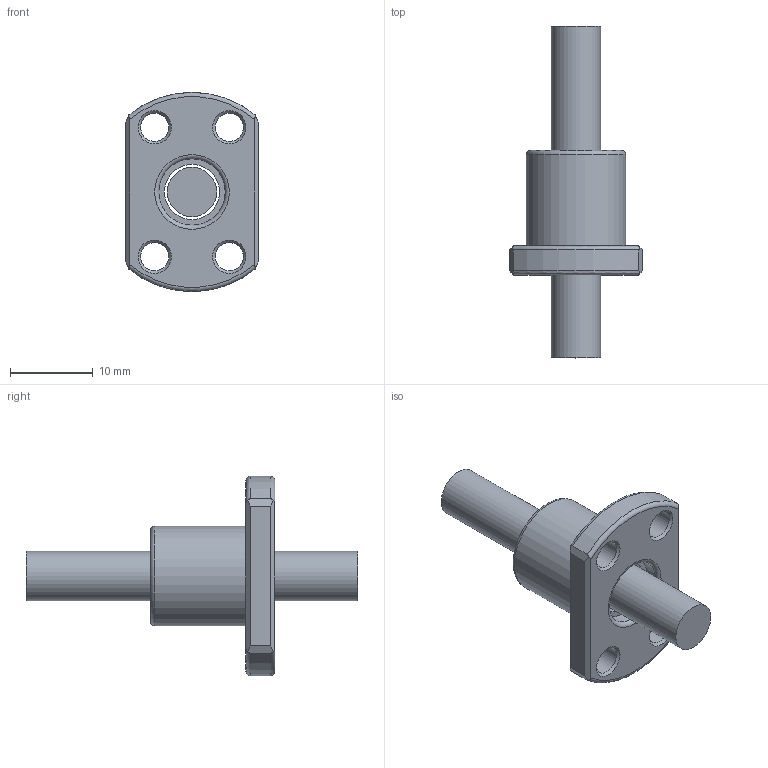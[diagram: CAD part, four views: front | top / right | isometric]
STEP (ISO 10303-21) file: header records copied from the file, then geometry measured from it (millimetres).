
FILE_DESCRIPTION(/* description */ (''),/* implementation_level */ '2;1');
FILE_NAME(/* name */ '0601.prt.step',/* time_stamp */ '2008-12-05T09:38:03+08:00',/* author */ (''),/* organization */ (''),/* preprocessor_version */ 'ST-DEVELOPER v11',/* originating_system */ 'SIEMENS UGS NX 6.0',/* authorisation */ '');
FILE_SCHEMA (('AUTOMOTIVE_DESIGN { 1 0 10303 214 1 1 1 1 }'));
Length unit declared in the file: millimetre
Products named in the file (1): 0601
Bounding box: 16 x 40 x 24 mm (x, y, z)
Volume: 2916.8 mm3; surface area: 2458.4 mm2
Topology: 2 solids, 2 shells, 43 faces, 100 edges, 64 vertices
Faces by surface type: plane 17, cylinder 11, cone 8, torus 7
Full cylindrical faces by diameter (mm): 3.4 x4, 5.95 x1, 6.65 x1, 8 x2, 12 x1
Entity records: 1334 total; most frequent: CARTESIAN_POINT 398, DIRECTION 186, ORIENTED_EDGE 154, AXIS2_PLACEMENT_3D 81, EDGE_CURVE 77, EDGE_LOOP 76, VERTEX_POINT 61, FACE_BOUND 58
